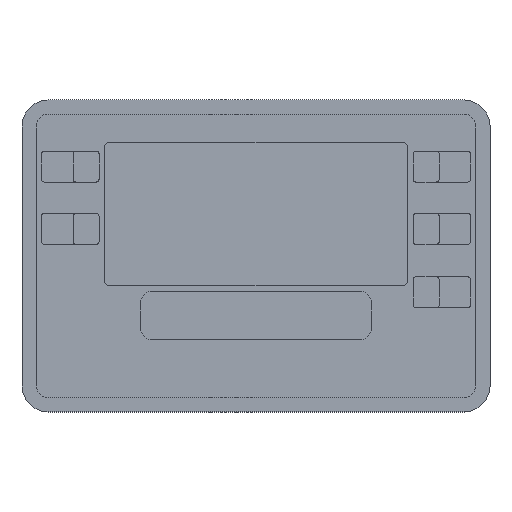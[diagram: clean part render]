
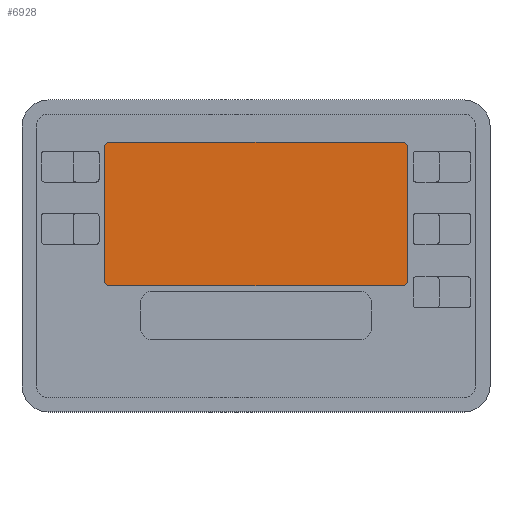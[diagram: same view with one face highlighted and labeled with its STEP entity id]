
A CAD part, top view. The second image highlights one B-rep face of the part: STEP entity #6928.
In plain terms, the highlighted planar face has unit normal (0, 0, 1).
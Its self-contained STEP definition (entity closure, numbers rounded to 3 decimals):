
#382=LINE('',#12942,#1179);
#385=LINE('',#12950,#1182);
#388=LINE('',#12958,#1185);
#390=LINE('',#12964,#1187);
#1179=VECTOR('',#10819,1000.);
#1182=VECTOR('',#10828,1000.);
#1185=VECTOR('',#10837,1000.);
#1187=VECTOR('',#10845,1000.);
#2288=ORIENTED_EDGE('',*,*,#4095,.T.);
#2289=ORIENTED_EDGE('',*,*,#4098,.T.);
#2290=ORIENTED_EDGE('',*,*,#4100,.T.);
#2291=ORIENTED_EDGE('',*,*,#4102,.T.);
#2292=ORIENTED_EDGE('',*,*,#4104,.T.);
#2293=ORIENTED_EDGE('',*,*,#4106,.T.);
#2294=ORIENTED_EDGE('',*,*,#4108,.T.);
#2295=ORIENTED_EDGE('',*,*,#4109,.T.);
#4095=EDGE_CURVE('',#5042,#5041,#5546,.T.);
#4098=EDGE_CURVE('',#5041,#5043,#382,.T.);
#4100=EDGE_CURVE('',#5043,#5044,#5547,.T.);
#4102=EDGE_CURVE('',#5044,#5045,#385,.T.);
#4104=EDGE_CURVE('',#5045,#5046,#5548,.T.);
#4106=EDGE_CURVE('',#5046,#5047,#388,.T.);
#4108=EDGE_CURVE('',#5047,#5048,#5549,.T.);
#4109=EDGE_CURVE('',#5048,#5042,#390,.T.);
#5041=VERTEX_POINT('',#12935);
#5042=VERTEX_POINT('',#12937);
#5043=VERTEX_POINT('',#12941);
#5044=VERTEX_POINT('',#12945);
#5045=VERTEX_POINT('',#12949);
#5046=VERTEX_POINT('',#12953);
#5047=VERTEX_POINT('',#12957);
#5048=VERTEX_POINT('',#12961);
#5546=CIRCLE('',#9787,2.);
#5547=CIRCLE('',#9790,2.);
#5548=CIRCLE('',#9793,2.);
#5549=CIRCLE('',#9796,2.);
#5779=EDGE_LOOP('',(#2288,#2289,#2290,#2291,#2292,#2293,#2294,#2295));
#6226=FACE_BOUND('',#5779,.T.);
#6613=PLANE('',#9798);
#6928=ADVANCED_FACE('',(#6226),#6613,.T.);
#9787=AXIS2_PLACEMENT_3D('',#12936,#10813,#10814);
#9790=AXIS2_PLACEMENT_3D('',#12946,#10823,#10824);
#9793=AXIS2_PLACEMENT_3D('',#12954,#10832,#10833);
#9796=AXIS2_PLACEMENT_3D('',#12962,#10841,#10842);
#9798=AXIS2_PLACEMENT_3D('',#12965,#10846,#10847);
#10813=DIRECTION('',(0.,0.,1.));
#10814=DIRECTION('',(1.,0.,0.));
#10819=DIRECTION('',(0.,-1.,0.));
#10823=DIRECTION('',(0.,0.,1.));
#10824=DIRECTION('',(1.,0.,0.));
#10828=DIRECTION('',(1.,0.,0.));
#10832=DIRECTION('',(0.,0.,1.));
#10833=DIRECTION('',(1.,0.,0.));
#10837=DIRECTION('',(0.,1.,0.));
#10841=DIRECTION('',(0.,0.,1.));
#10842=DIRECTION('',(1.,0.,0.));
#10845=DIRECTION('',(-1.,0.,0.));
#10846=DIRECTION('',(0.,0.,1.));
#10847=DIRECTION('',(1.,0.,0.));
#12935=CARTESIAN_POINT('',(-58.287,41.752,1.8));
#12936=CARTESIAN_POINT('',(-56.287,41.752,1.8));
#12937=CARTESIAN_POINT('',(-56.287,43.752,1.8));
#12941=CARTESIAN_POINT('',(-58.287,-9.438,1.8));
#12942=CARTESIAN_POINT('',(-58.287,41.752,1.8));
#12945=CARTESIAN_POINT('',(-56.287,-11.438,1.8));
#12946=CARTESIAN_POINT('',(-56.287,-9.438,1.8));
#12949=CARTESIAN_POINT('',(56.287,-11.438,1.8));
#12950=CARTESIAN_POINT('',(-56.287,-11.438,1.8));
#12953=CARTESIAN_POINT('',(58.287,-9.438,1.8));
#12954=CARTESIAN_POINT('',(56.287,-9.438,1.8));
#12957=CARTESIAN_POINT('',(58.287,41.752,1.8));
#12958=CARTESIAN_POINT('',(58.287,-9.438,1.8));
#12961=CARTESIAN_POINT('',(56.287,43.752,1.8));
#12962=CARTESIAN_POINT('',(56.287,41.752,1.8));
#12964=CARTESIAN_POINT('',(56.287,43.752,1.8));
#12965=CARTESIAN_POINT('',(-56.287,41.752,1.8));
